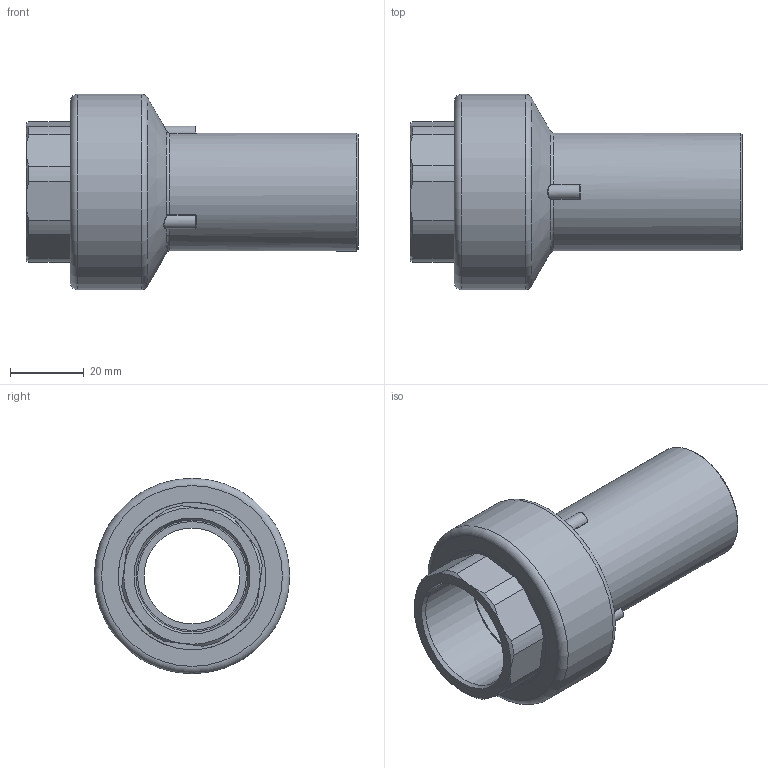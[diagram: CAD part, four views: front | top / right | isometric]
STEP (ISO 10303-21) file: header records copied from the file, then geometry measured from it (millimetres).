
FILE_DESCRIPTION(/* description */ ('Unknown'),/* implementation_level */ '2;1');
FILE_NAME(/* name */ 'RTOFP032C',/* time_stamp */ '2021-03-01T15:31:52+01:00',/* author */ ('Unknown'),/* organization */ ('Unknown'),/* preprocessor_version */ 'ST-DEVELOPER v16.7',/* originating_system */ 'Solid Edge',/* authorisation */ 'Unknown');
FILE_SCHEMA (('AUTOMOTIVE_DESIGN {1 0 10303 214 3 1 1}'));
Length unit declared in the file: millimetre
Products named in the file (3): RTOFP032C; Parte PE 032; IOF032C
Assembly tree (2 placements, depth 2):
  RTOFP032C
    Parte PE 032
    IOF032C
Bounding box: 90 x 53 x 53 mm (x, y, z)
Volume: 56440.9 mm3; surface area: 31774.3 mm2
Topology: 2 solids, 2 shells, 487 faces, 1182 edges, 711 vertices
Faces by surface type: bspline 231, plane 99, cylinder 83, cone 39, torus 35
Full cylindrical faces by diameter (mm): 26 x1, 29.5 x4, 30.291 x1, 32 x1, 33.5 x2, 39.8 x2, 40 x2, 44 x4, 53 x1
Entity records: 18253 total; most frequent: CARTESIAN_POINT 6648, ORIENTED_EDGE 2294, DIRECTION 1820, EDGE_CURVE 1147, AXIS2_PLACEMENT_3D 844, VERTEX_POINT 703, EDGE_LOOP 530, FACE_BOUND 530
